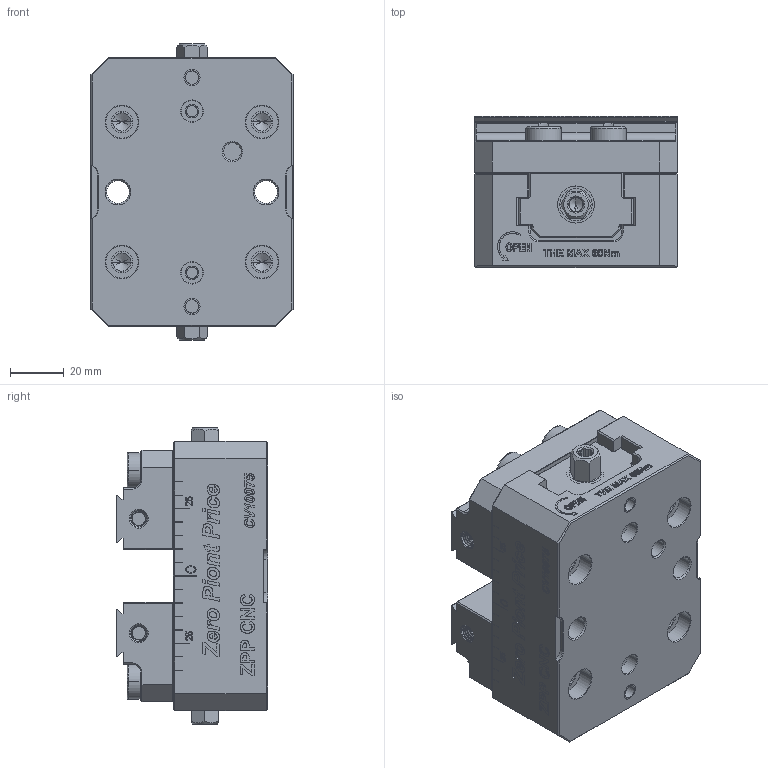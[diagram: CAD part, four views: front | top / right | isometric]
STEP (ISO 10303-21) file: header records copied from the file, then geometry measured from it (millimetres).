
FILE_DESCRIPTION((''),'2;1');
FILE_NAME('CV10075_ASM','2024-07-15T17:04:54',('XF'),(''),'CREO PARAMETRIC BY PTC INC, 2022073','CREO PARAMETRIC BY PTC INC, 2022073','');
FILE_SCHEMA(('CONFIG_CONTROL_DESIGN'));
Products named in the file (7): CV10075_1; CV10075_4; CV10075_3; CV10075_5; CV10075_2; M8X20; CV10075_ASM
Assembly tree (15 placements, depth 2):
  CV10075_ASM
    CV10075_1
    CV10075_4
    CV10075_3  x2
    CV10075_5
    CV10075_2  x2
    M8X20  x8
Bounding box: 75 x 56.14 x 110 mm (x, y, z)
Volume: 310853.1 mm3; surface area: 106445.7 mm2
Topology: 15 solids, 45 shells, 4758 faces, 13564 edges, 9026 vertices
Faces by surface type: plane 3370, extrusion 766, cylinder 336, cone 206, bspline 44, torus 36
Entity records: 117991 total; most frequent: CARTESIAN_POINT 32478, ORIENTED_EDGE 19156, DIRECTION 14486, EDGE_CURVE 9620, VECTOR 7868, LINE 7102, VERTEX_POINT 6417, EDGE_LOOP 3619
